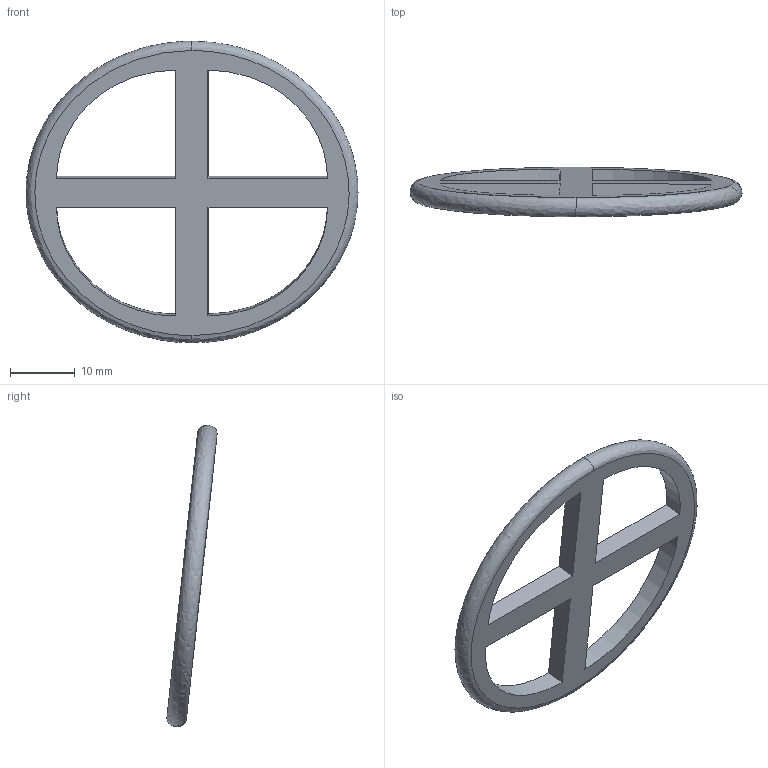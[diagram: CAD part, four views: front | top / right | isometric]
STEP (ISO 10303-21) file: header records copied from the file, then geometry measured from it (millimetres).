
FILE_DESCRIPTION(/* description */ (''),/* implementation_level */ '2;1');
FILE_NAME(/* name */ 'XS-CHI~3',/* time_stamp */ '2020-04-10T22:09:46+03:00',/* author */ (''),/* organization */ (''),/* preprocessor_version */ 'ST-DEVELOPER v16.5',/* originating_system */ '',/* authorisation */ '');
FILE_SCHEMA (('AUTOMOTIVE_DESIGN'));
Length unit declared in the file: millimetre
Products named in the file (1): Document
Bounding box: 51.29 x 7.74 x 46.58 mm (x, y, z)
Volume: 2603.2 mm3; surface area: 2852.6 mm2
Topology: 1 solids, 1 shells, 18 faces, 46 edges, 30 vertices
Faces by surface type: plane 10, bspline 8
Entity records: 1332 total; most frequent: CARTESIAN_POINT 1006, ORIENTED_EDGE 92, EDGE_CURVE 46, VERTEX_POINT 30, EDGE_LOOP 26, B_SPLINE_CURVE_WITH_KNOTS 24, ADVANCED_FACE 18, FACE_OUTER_BOUND 18
